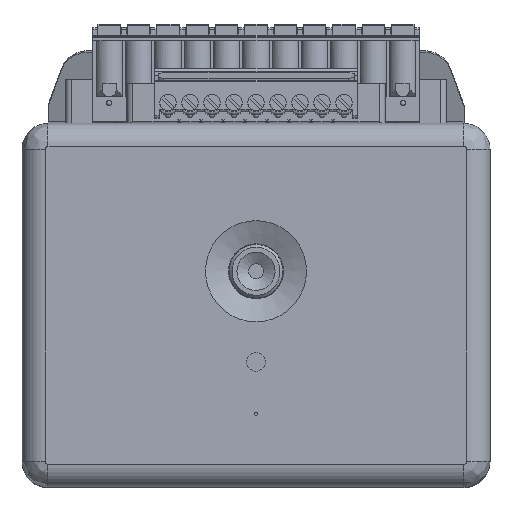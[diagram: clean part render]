
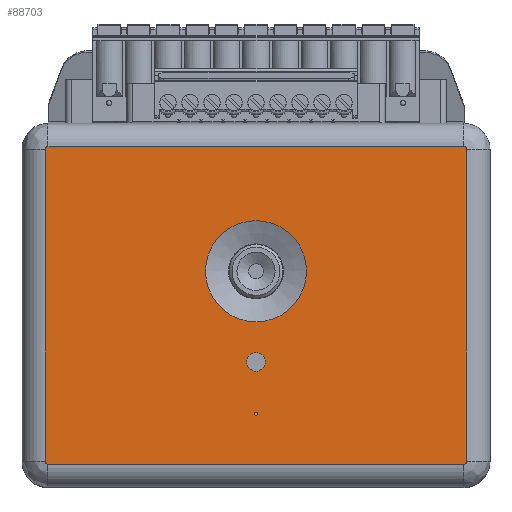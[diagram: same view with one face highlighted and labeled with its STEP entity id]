
A CAD part, top view. The second image highlights one B-rep face of the part: STEP entity #88703.
In plain terms, the highlighted planar face has unit normal (0, 0, 1) as drawn and (0, 0, -1) by its records, which use the part's own axes.
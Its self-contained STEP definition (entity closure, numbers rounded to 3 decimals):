
#3159=CIRCLE('',#98646,0.5);
#3162=CIRCLE('',#98650,0.5);
#3166=CIRCLE('',#98655,0.5);
#3170=CIRCLE('',#98660,0.5);
#3174=CIRCLE('',#98669,8.75);
#3175=CIRCLE('',#98670,0.25);
#3176=CIRCLE('',#98671,1.6);
#5301=FACE_BOUND('',#18075,.T.);
#5302=FACE_BOUND('',#18076,.T.);
#5303=FACE_BOUND('',#18077,.T.);
#12714=FACE_OUTER_BOUND('',#18074,.T.);
#18074=EDGE_LOOP('',(#74272,#74273,#74274,#74275,#74276,#74277,#74278,#74279));
#18075=EDGE_LOOP('',(#74280));
#18076=EDGE_LOOP('',(#74281));
#18077=EDGE_LOOP('',(#74282));
#26373=LINE('',#153086,#35412);
#26375=LINE('',#153104,#35414);
#26376=LINE('',#153123,#35415);
#26378=LINE('',#153140,#35417);
#35412=VECTOR('',#119015,10.);
#35414=VECTOR('',#119027,10.);
#35415=VECTOR('',#119038,10.);
#35417=VECTOR('',#119048,10.);
#43067=VERTEX_POINT('',#153074);
#43070=VERTEX_POINT('',#153079);
#43072=VERTEX_POINT('',#153084);
#43073=VERTEX_POINT('',#153097);
#43074=VERTEX_POINT('',#153102);
#43076=VERTEX_POINT('',#153115);
#43078=VERTEX_POINT('',#153121);
#43080=VERTEX_POINT('',#153135);
#43084=VERTEX_POINT('',#153155);
#43085=VERTEX_POINT('',#153157);
#43086=VERTEX_POINT('',#153159);
#53791=EDGE_CURVE('',#43070,#43067,#3159,.T.);
#53793=EDGE_CURVE('',#43072,#43070,#26373,.T.);
#53796=EDGE_CURVE('',#43073,#43072,#3162,.T.);
#53799=EDGE_CURVE('',#43074,#43073,#26375,.T.);
#53801=EDGE_CURVE('',#43076,#43074,#3166,.T.);
#53804=EDGE_CURVE('',#43078,#43076,#26376,.T.);
#53807=EDGE_CURVE('',#43080,#43078,#3170,.T.);
#53809=EDGE_CURVE('',#43067,#43080,#26378,.T.);
#53817=EDGE_CURVE('',#43084,#43084,#3174,.T.);
#53818=EDGE_CURVE('',#43085,#43085,#3175,.T.);
#53819=EDGE_CURVE('',#43086,#43086,#3176,.T.);
#74272=ORIENTED_EDGE('',*,*,#53791,.F.);
#74273=ORIENTED_EDGE('',*,*,#53793,.F.);
#74274=ORIENTED_EDGE('',*,*,#53796,.F.);
#74275=ORIENTED_EDGE('',*,*,#53799,.F.);
#74276=ORIENTED_EDGE('',*,*,#53801,.F.);
#74277=ORIENTED_EDGE('',*,*,#53804,.F.);
#74278=ORIENTED_EDGE('',*,*,#53807,.F.);
#74279=ORIENTED_EDGE('',*,*,#53809,.F.);
#74280=ORIENTED_EDGE('',*,*,#53817,.F.);
#74281=ORIENTED_EDGE('',*,*,#53818,.T.);
#74282=ORIENTED_EDGE('',*,*,#53819,.T.);
#84191=PLANE('',#98668);
#88703=ADVANCED_FACE('',(#12714,#5301,#5302,#5303),#84191,.F.);
#98646=AXIS2_PLACEMENT_3D('',#153081,#119009,#119010);
#98650=AXIS2_PLACEMENT_3D('',#153099,#119019,#119020);
#98655=AXIS2_PLACEMENT_3D('',#153117,#119030,#119031);
#98660=AXIS2_PLACEMENT_3D('',#153137,#119042,#119043);
#98668=AXIS2_PLACEMENT_3D('',#153154,#119064,#119065);
#98669=AXIS2_PLACEMENT_3D('',#153156,#119066,#119067);
#98670=AXIS2_PLACEMENT_3D('',#153158,#119068,#119069);
#98671=AXIS2_PLACEMENT_3D('',#153160,#119070,#119071);
#119009=DIRECTION('center_axis',(0.,0.,1.));
#119010=DIRECTION('ref_axis',(0.707,0.707,0.));
#119015=DIRECTION('',(0.,1.,0.));
#119019=DIRECTION('center_axis',(0.,0.,1.));
#119020=DIRECTION('ref_axis',(0.707,-0.707,0.));
#119027=DIRECTION('',(1.,0.,0.));
#119030=DIRECTION('center_axis',(0.,0.,1.));
#119031=DIRECTION('ref_axis',(-0.707,-0.707,0.));
#119038=DIRECTION('',(0.,-1.,0.));
#119042=DIRECTION('center_axis',(0.,0.,1.));
#119043=DIRECTION('ref_axis',(-0.707,0.707,0.));
#119048=DIRECTION('',(-1.,0.,0.));
#119064=DIRECTION('center_axis',(0.,0.,1.));
#119065=DIRECTION('ref_axis',(1.,0.,0.));
#119066=DIRECTION('center_axis',(0.,0.,-1.));
#119067=DIRECTION('ref_axis',(1.,0.,0.));
#119068=DIRECTION('center_axis',(0.,0.,1.));
#119069=DIRECTION('ref_axis',(1.,0.,0.));
#119070=DIRECTION('center_axis',(0.,0.,1.));
#119071=DIRECTION('ref_axis',(1.,0.,0.));
#153074=CARTESIAN_POINT('',(36.,27.5,0.));
#153079=CARTESIAN_POINT('',(36.5,27.,0.));
#153081=CARTESIAN_POINT('Origin',(36.,27.,0.));
#153084=CARTESIAN_POINT('',(36.5,-27.,0.));
#153086=CARTESIAN_POINT('',(36.5,-13.5,0.));
#153097=CARTESIAN_POINT('',(36.,-27.5,0.));
#153099=CARTESIAN_POINT('Origin',(36.,-27.,0.));
#153102=CARTESIAN_POINT('',(-36.,-27.5,0.));
#153104=CARTESIAN_POINT('',(-18.,-27.5,0.));
#153115=CARTESIAN_POINT('',(-36.5,-27.,0.));
#153117=CARTESIAN_POINT('Origin',(-36.,-27.,0.));
#153121=CARTESIAN_POINT('',(-36.5,27.,0.));
#153123=CARTESIAN_POINT('',(-36.5,13.5,0.));
#153135=CARTESIAN_POINT('',(-36.,27.5,0.));
#153137=CARTESIAN_POINT('Origin',(-36.,27.,0.));
#153140=CARTESIAN_POINT('',(18.,27.5,0.));
#153154=CARTESIAN_POINT('Origin',(0.,0.,0.));
#153155=CARTESIAN_POINT('',(-8.75,-5.9,0.));
#153156=CARTESIAN_POINT('Origin',(0.,-5.9,0.));
#153157=CARTESIAN_POINT('',(-0.25,18.8,0.));
#153158=CARTESIAN_POINT('Origin',(0.,18.8,0.));
#153159=CARTESIAN_POINT('',(-1.6,9.8,0.));
#153160=CARTESIAN_POINT('Origin',(0.,9.8,0.));
